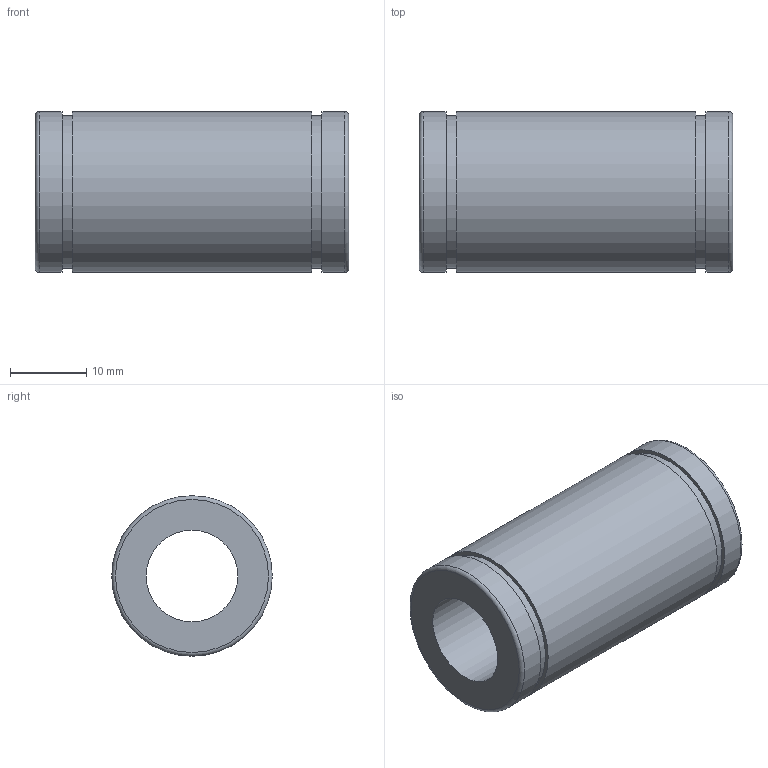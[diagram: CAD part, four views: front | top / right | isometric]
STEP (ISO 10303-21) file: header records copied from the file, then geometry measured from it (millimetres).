
FILE_DESCRIPTION(('STEP AP203'),'1');
FILE_NAME('//192.168.1.1/share/s-4 技術開発/s-4-13_CAD/03_見直し済み/001 修正済み/N-VM/N-VM_TOP/N-12VM.step','2020-04-08T00:08:42',(' '),(' '),'Spatial InterOp 3D',' ',' ');
FILE_SCHEMA(('CONFIG_CONTROL_DESIGN'));
Length unit declared in the file: millimetre
Products named in the file (1): 1
Bounding box: 41 x 21 x 21 mm (x, y, z)
Volume: 9469.8 mm3; surface area: 4808.9 mm2
Topology: 1 solids, 1 shells, 14 faces, 22 edges, 14 vertices
Faces by surface type: plane 6, cylinder 6, torus 2
Full cylindrical faces by diameter (mm): 12 x1, 20 x2, 21 x3
Entity records: 332 total; most frequent: DIRECTION 58, CARTESIAN_POINT 43, AXIS2_PLACEMENT_3D 29, EDGE_LOOP 28, ORIENTED_EDGE 28, FACE_OUTER_BOUND 22, ADVANCED_FACE 14, EDGE_CURVE 14
